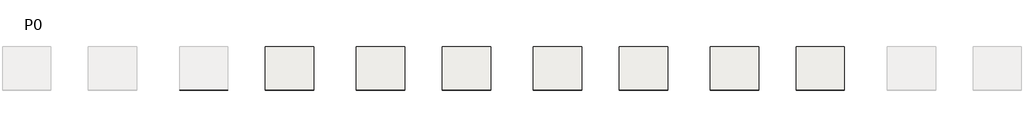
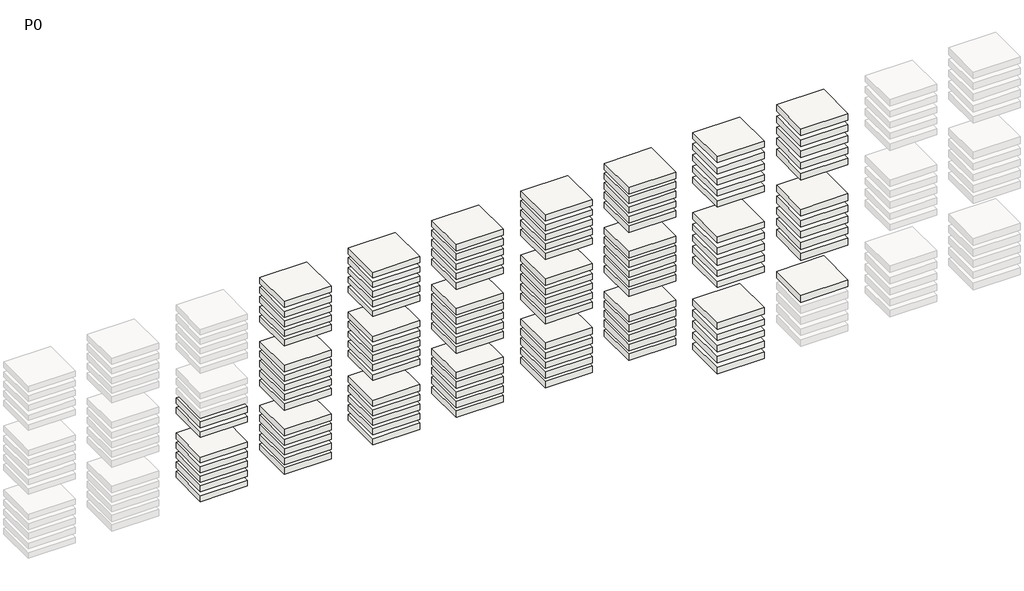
# One storey, part 7 of 11: 108 slabs.
"""IFC4 building model written with IfcOpenShell, lengths in millimetres."""

from ifc_helpers import new_model, si_unit, frame, origin, place, context, project, spatial, polyline, outline, extrude, element, save

model = new_model("IFC4")

# Units and contexts
model_context = context("Model", 3, world=origin())
ifc_project = project(units=[si_unit("LENGTHUNIT", "METRE", prefix="MILLI")], contexts=[model_context])

# Site, building, storey
site = spatial("IfcSite", under=ifc_project)
building = spatial("IfcBuilding", under=site)
storey = spatial("IfcBuildingStorey", under=building, Name="P0", Elevation=0.0)

# Slabs
placement = place(None, origin())
element("IfcSlab", 1, ObjectType="NNEH27 H6", at=placement, inside=storey, context=model_context, shape_type="SweptSolid", body=[
    extrude(outline(polyline([(174510.1564071, 1686.0689128), (174510.1564071, -1013.9310872), (171510.1564071, -1013.9310872), (171510.1564071, 1686.0689128), (174510.1564071, 1686.0689128)])), frame((0.0, 0.0, -13779.5322376), z_axis=(0.0, 0.0, 1.0), x_axis=(1.0, 0.0, 0.0)), (0.0, 0.0, 1.0), 388.0),
])
element("IfcSlab", 2, ObjectType="NNEH27 H6", at=placement, inside=storey, context=model_context, shape_type="SweptSolid", body=[
    extrude(outline(polyline([(174510.1564071, 1686.0689128), (174510.1564071, -1013.9310872), (171510.1564071, -1013.9310872), (171510.1564071, 1686.0689128), (174510.1564071, 1686.0689128)])), frame((0.0, 0.0, -14429.5322376), z_axis=(0.0, 0.0, 1.0), x_axis=(1.0, 0.0, 0.0)), (0.0, 0.0, 1.0), 388.0),
])
element("IfcSlab", 3, ObjectType="NNEH27 H7", at=placement, inside=storey, context=model_context, shape_type="SweptSolid", body=[
    extrude(outline(polyline([(174510.1564071, 1686.0689128), (174510.1564071, -1013.9310872), (171510.1564071, -1013.9310872), (171510.1564071, 1686.0689128), (174510.1564071, 1686.0689128)])), frame((0.0, 0.0, -16159.5323192), z_axis=(0.0, 0.0, 1.0), x_axis=(1.0, 0.0, 0.0)), (0.0, 0.0, 1.0), 398.0),
])
element("IfcSlab", 4, ObjectType="NNEH27 H7", at=placement, inside=storey, context=model_context, shape_type="SweptSolid", body=[
    extrude(outline(polyline([(174510.1564071, 1686.0689128), (174510.1564071, -1013.9310872), (171510.1564071, -1013.9310872), (171510.1564071, 1686.0689128), (174510.1564071, 1686.0689128)])), frame((0.0, 0.0, -16809.5323192), z_axis=(0.0, 0.0, 1.0), x_axis=(1.0, 0.0, 0.0)), (0.0, 0.0, 1.0), 398.0),
])
element("IfcSlab", 5, ObjectType="NNEH27 H7", at=placement, inside=storey, context=model_context, shape_type="SweptSolid", body=[
    extrude(outline(polyline([(174510.1564071, 1686.0689128), (174510.1564071, -1013.9310872), (171510.1564071, -1013.9310872), (171510.1564071, 1686.0689128), (174510.1564071, 1686.0689128)])), frame((0.0, 0.0, -17459.5323192), z_axis=(0.0, 0.0, 1.0), x_axis=(1.0, 0.0, 0.0)), (0.0, 0.0, 1.0), 398.0),
])
element("IfcSlab", 6, ObjectType="NNEH27 H7", at=placement, inside=storey, context=model_context, shape_type="SweptSolid", body=[
    extrude(outline(polyline([(174510.1564071, 1686.0689128), (174510.1564071, -1013.9310872), (171510.1564071, -1013.9310872), (171510.1564071, 1686.0689128), (174510.1564071, 1686.0689128)])), frame((0.0, 0.0, -18109.5323192), z_axis=(0.0, 0.0, 1.0), x_axis=(1.0, 0.0, 0.0)), (0.0, 0.0, 1.0), 398.0),
])
element("IfcSlab", 7, ObjectType="NNEH27 H7", at=placement, inside=storey, context=model_context, shape_type="SweptSolid", body=[
    extrude(outline(polyline([(174510.1564071, 1686.0689128), (174510.1564071, -1013.9310872), (171510.1564071, -1013.9310872), (171510.1564071, 1686.0689128), (174510.1564071, 1686.0689128)])), frame((0.0, 0.0, -18759.5323192), z_axis=(0.0, 0.0, 1.0), x_axis=(1.0, 0.0, 0.0)), (0.0, 0.0, 1.0), 398.0),
])
element("IfcSlab", 8, ObjectType="NNEH27 H8", at=placement, inside=storey, context=model_context, shape_type="SweptSolid", body=[
    extrude(outline(polyline([(179850.1564071, 1686.0689128), (179850.1564071, -1013.9310872), (176850.1564071, -1013.9310872), (176850.1564071, 1686.0689128), (179850.1564071, 1686.0689128)])), frame((0.0, 0.0, -7529.5323192), z_axis=(0.0, 0.0, 1.0), x_axis=(1.0, 0.0, 0.0)), (0.0, 0.0, 1.0), 408.0),
])
element("IfcSlab", 9, ObjectType="NNEH27 H8", at=placement, inside=storey, context=model_context, shape_type="SweptSolid", body=[
    extrude(outline(polyline([(179850.1564071, 1686.0689128), (179850.1564071, -1013.9310872), (176850.1564071, -1013.9310872), (176850.1564071, 1686.0689128), (179850.1564071, 1686.0689128)])), frame((0.0, 0.0, -8179.5323192), z_axis=(0.0, 0.0, 1.0), x_axis=(1.0, 0.0, 0.0)), (0.0, 0.0, 1.0), 408.0),
])
element("IfcSlab", 10, ObjectType="NNEH27 H8", at=placement, inside=storey, context=model_context, shape_type="SweptSolid", body=[
    extrude(outline(polyline([(179850.1564071, 1686.0689128), (179850.1564071, -1013.9310872), (176850.1564071, -1013.9310872), (176850.1564071, 1686.0689128), (179850.1564071, 1686.0689128)])), frame((0.0, 0.0, -8829.5323192), z_axis=(0.0, 0.0, 1.0), x_axis=(1.0, 0.0, 0.0)), (0.0, 0.0, 1.0), 408.0),
])
element("IfcSlab", 11, ObjectType="NNEH27 H8", at=placement, inside=storey, context=model_context, shape_type="SweptSolid", body=[
    extrude(outline(polyline([(179850.1564071, 1686.0689128), (179850.1564071, -1013.9310872), (176850.1564071, -1013.9310872), (176850.1564071, 1686.0689128), (179850.1564071, 1686.0689128)])), frame((0.0, 0.0, -9479.5323192), z_axis=(0.0, 0.0, 1.0), x_axis=(1.0, 0.0, 0.0)), (0.0, 0.0, 1.0), 408.0),
])
element("IfcSlab", 12, ObjectType="NNEH27 H8", at=placement, inside=storey, context=model_context, shape_type="SweptSolid", body=[
    extrude(outline(polyline([(179850.1564071, 1686.0689128), (179850.1564071, -1013.9310872), (176850.1564071, -1013.9310872), (176850.1564071, 1686.0689128), (179850.1564071, 1686.0689128)])), frame((0.0, 0.0, -10129.5324008), z_axis=(0.0, 0.0, 1.0), x_axis=(1.0, 0.0, 0.0)), (0.0, 0.0, 1.0), 408.0),
])
element("IfcSlab", 13, ObjectType="NNEH27 H9", at=placement, inside=storey, context=model_context, shape_type="SweptSolid", body=[
    extrude(outline(polyline([(179850.1564071, 1686.0689128), (179850.1564071, -1013.9310872), (176850.1564071, -1013.9310872), (176850.1564071, 1686.0689128), (179850.1564071, 1686.0689128)])), frame((0.0, 0.0, -11859.5322376), z_axis=(0.0, 0.0, 1.0), x_axis=(1.0, 0.0, 0.0)), (0.0, 0.0, 1.0), 418.0),
])
element("IfcSlab", 14, ObjectType="NNEH27 H9", at=placement, inside=storey, context=model_context, shape_type="SweptSolid", body=[
    extrude(outline(polyline([(179850.1564071, 1686.0689128), (179850.1564071, -1013.9310872), (176850.1564071, -1013.9310872), (176850.1564071, 1686.0689128), (179850.1564071, 1686.0689128)])), frame((0.0, 0.0, -12509.5322376), z_axis=(0.0, 0.0, 1.0), x_axis=(1.0, 0.0, 0.0)), (0.0, 0.0, 1.0), 418.0),
])
element("IfcSlab", 15, ObjectType="NNEH27 H9", at=placement, inside=storey, context=model_context, shape_type="SweptSolid", body=[
    extrude(outline(polyline([(179850.1564071, 1686.0689128), (179850.1564071, -1013.9310872), (176850.1564071, -1013.9310872), (176850.1564071, 1686.0689128), (179850.1564071, 1686.0689128)])), frame((0.0, 0.0, -13159.5322376), z_axis=(0.0, 0.0, 1.0), x_axis=(1.0, 0.0, 0.0)), (0.0, 0.0, 1.0), 418.0),
])
element("IfcSlab", 16, ObjectType="NNEH27 H9", at=placement, inside=storey, context=model_context, shape_type="SweptSolid", body=[
    extrude(outline(polyline([(179850.1564071, 1686.0689128), (179850.1564071, -1013.9310872), (176850.1564071, -1013.9310872), (176850.1564071, 1686.0689128), (179850.1564071, 1686.0689128)])), frame((0.0, 0.0, -13809.5322376), z_axis=(0.0, 0.0, 1.0), x_axis=(1.0, 0.0, 0.0)), (0.0, 0.0, 1.0), 418.0),
])
element("IfcSlab", 17, ObjectType="NNEH27 H9", at=placement, inside=storey, context=model_context, shape_type="SweptSolid", body=[
    extrude(outline(polyline([(179850.1564071, 1686.0689128), (179850.1564071, -1013.9310872), (176850.1564071, -1013.9310872), (176850.1564071, 1686.0689128), (179850.1564071, 1686.0689128)])), frame((0.0, 0.0, -14459.5322376), z_axis=(0.0, 0.0, 1.0), x_axis=(1.0, 0.0, 0.0)), (0.0, 0.0, 1.0), 418.0),
])
element("IfcSlab", 18, ObjectType="NNEH27 H10", at=placement, inside=storey, context=model_context, shape_type="SweptSolid", body=[
    extrude(outline(polyline([(179850.1564071, 1686.0689128), (179850.1564071, -1013.9310872), (176850.1564071, -1013.9310872), (176850.1564071, 1686.0689128), (179850.1564071, 1686.0689128)])), frame((0.0, 0.0, -16189.5323192), z_axis=(0.0, 0.0, 1.0), x_axis=(1.0, 0.0, 0.0)), (0.0, 0.0, 1.0), 428.0),
])
element("IfcSlab", 19, ObjectType="NNEH27 H10", at=placement, inside=storey, context=model_context, shape_type="SweptSolid", body=[
    extrude(outline(polyline([(179850.1564071, 1686.0689128), (179850.1564071, -1013.9310872), (176850.1564071, -1013.9310872), (176850.1564071, 1686.0689128), (179850.1564071, 1686.0689128)])), frame((0.0, 0.0, -16839.5323192), z_axis=(0.0, 0.0, 1.0), x_axis=(1.0, 0.0, 0.0)), (0.0, 0.0, 1.0), 428.0),
])
element("IfcSlab", 20, ObjectType="NNEH27 H10", at=placement, inside=storey, context=model_context, shape_type="SweptSolid", body=[
    extrude(outline(polyline([(179850.1564071, 1686.0689128), (179850.1564071, -1013.9310872), (176850.1564071, -1013.9310872), (176850.1564071, 1686.0689128), (179850.1564071, 1686.0689128)])), frame((0.0, 0.0, -17489.5323192), z_axis=(0.0, 0.0, 1.0), x_axis=(1.0, 0.0, 0.0)), (0.0, 0.0, 1.0), 428.0),
])
element("IfcSlab", 21, ObjectType="NNEH27 H10", at=placement, inside=storey, context=model_context, shape_type="SweptSolid", body=[
    extrude(outline(polyline([(179850.1564071, 1686.0689128), (179850.1564071, -1013.9310872), (176850.1564071, -1013.9310872), (176850.1564071, 1686.0689128), (179850.1564071, 1686.0689128)])), frame((0.0, 0.0, -18139.5323192), z_axis=(0.0, 0.0, 1.0), x_axis=(1.0, 0.0, 0.0)), (0.0, 0.0, 1.0), 428.0),
])
element("IfcSlab", 22, ObjectType="NNEH27 H10", at=placement, inside=storey, context=model_context, shape_type="SweptSolid", body=[
    extrude(outline(polyline([(179850.1564071, 1686.0689128), (179850.1564071, -1013.9310872), (176850.1564071, -1013.9310872), (176850.1564071, 1686.0689128), (179850.1564071, 1686.0689128)])), frame((0.0, 0.0, -18789.5323192), z_axis=(0.0, 0.0, 1.0), x_axis=(1.0, 0.0, 0.0)), (0.0, 0.0, 1.0), 428.0),
])
element("IfcSlab", 23, ObjectType="NNEH28 H5", at=placement, inside=storey, context=model_context, shape_type="SweptSolid", body=[
    extrude(outline(polyline([(185510.1564071, 1686.0689128), (185510.1564071, -1013.9310872), (182510.1564071, -1013.9310872), (182510.1564071, 1686.0689128), (185510.1564071, 1686.0689128)])), frame((0.0, 0.0, -7509.5324008), z_axis=(0.0, 0.0, 1.0), x_axis=(1.0, 0.0, 0.0)), (0.0, 0.0, 1.0), 388.0),
])
element("IfcSlab", 24, ObjectType="NNEH28 H5", at=placement, inside=storey, context=model_context, shape_type="SweptSolid", body=[
    extrude(outline(polyline([(185510.1564071, 1686.0689128), (185510.1564071, -1013.9310872), (182510.1564071, -1013.9310872), (182510.1564071, 1686.0689128), (185510.1564071, 1686.0689128)])), frame((0.0, 0.0, -8159.5323192), z_axis=(0.0, 0.0, 1.0), x_axis=(1.0, 0.0, 0.0)), (0.0, 0.0, 1.0), 388.0),
])
element("IfcSlab", 25, ObjectType="NNEH28 H5", at=placement, inside=storey, context=model_context, shape_type="SweptSolid", body=[
    extrude(outline(polyline([(185510.1564071, 1686.0689128), (185510.1564071, -1013.9310872), (182510.1564071, -1013.9310872), (182510.1564071, 1686.0689128), (185510.1564071, 1686.0689128)])), frame((0.0, 0.0, -8809.5323192), z_axis=(0.0, 0.0, 1.0), x_axis=(1.0, 0.0, 0.0)), (0.0, 0.0, 1.0), 388.0),
])
element("IfcSlab", 26, ObjectType="NNEH28 H5", at=placement, inside=storey, context=model_context, shape_type="SweptSolid", body=[
    extrude(outline(polyline([(185510.1564071, 1686.0689128), (185510.1564071, -1013.9310872), (182510.1564071, -1013.9310872), (182510.1564071, 1686.0689128), (185510.1564071, 1686.0689128)])), frame((0.0, 0.0, -9459.5323192), z_axis=(0.0, 0.0, 1.0), x_axis=(1.0, 0.0, 0.0)), (0.0, 0.0, 1.0), 388.0),
])
element("IfcSlab", 27, ObjectType="NNEH28 H5", at=placement, inside=storey, context=model_context, shape_type="SweptSolid", body=[
    extrude(outline(polyline([(185510.1564071, 1686.0689128), (185510.1564071, -1013.9310872), (182510.1564071, -1013.9310872), (182510.1564071, 1686.0689128), (185510.1564071, 1686.0689128)])), frame((0.0, 0.0, -10109.5324008), z_axis=(0.0, 0.0, 1.0), x_axis=(1.0, 0.0, 0.0)), (0.0, 0.0, 1.0), 388.0),
])
element("IfcSlab", 28, ObjectType="NNEH28 H6", at=placement, inside=storey, context=model_context, shape_type="SweptSolid", body=[
    extrude(outline(polyline([(185510.1564071, 1686.0689128), (185510.1564071, -1013.9310872), (182510.1564071, -1013.9310872), (182510.1564071, 1686.0689128), (185510.1564071, 1686.0689128)])), frame((0.0, 0.0, -11839.5322376), z_axis=(0.0, 0.0, 1.0), x_axis=(1.0, 0.0, 0.0)), (0.0, 0.0, 1.0), 398.0),
])
element("IfcSlab", 29, ObjectType="NNEH28 H6", at=placement, inside=storey, context=model_context, shape_type="SweptSolid", body=[
    extrude(outline(polyline([(185510.1564071, 1686.0689128), (185510.1564071, -1013.9310872), (182510.1564071, -1013.9310872), (182510.1564071, 1686.0689128), (185510.1564071, 1686.0689128)])), frame((0.0, 0.0, -12489.5322376), z_axis=(0.0, 0.0, 1.0), x_axis=(1.0, 0.0, 0.0)), (0.0, 0.0, 1.0), 398.0),
])
element("IfcSlab", 30, ObjectType="NNEH28 H6", at=placement, inside=storey, context=model_context, shape_type="SweptSolid", body=[
    extrude(outline(polyline([(185510.1564071, 1686.0689128), (185510.1564071, -1013.9310872), (182510.1564071, -1013.9310872), (182510.1564071, 1686.0689128), (185510.1564071, 1686.0689128)])), frame((0.0, 0.0, -13139.5322376), z_axis=(0.0, 0.0, 1.0), x_axis=(1.0, 0.0, 0.0)), (0.0, 0.0, 1.0), 398.0),
])
element("IfcSlab", 31, ObjectType="NNEH28 H6", at=placement, inside=storey, context=model_context, shape_type="SweptSolid", body=[
    extrude(outline(polyline([(185510.1564071, 1686.0689128), (185510.1564071, -1013.9310872), (182510.1564071, -1013.9310872), (182510.1564071, 1686.0689128), (185510.1564071, 1686.0689128)])), frame((0.0, 0.0, -13789.5322376), z_axis=(0.0, 0.0, 1.0), x_axis=(1.0, 0.0, 0.0)), (0.0, 0.0, 1.0), 398.0),
])
element("IfcSlab", 32, ObjectType="NNEH28 H6", at=placement, inside=storey, context=model_context, shape_type="SweptSolid", body=[
    extrude(outline(polyline([(185510.1564071, 1686.0689128), (185510.1564071, -1013.9310872), (182510.1564071, -1013.9310872), (182510.1564071, 1686.0689128), (185510.1564071, 1686.0689128)])), frame((0.0, 0.0, -14439.5322376), z_axis=(0.0, 0.0, 1.0), x_axis=(1.0, 0.0, 0.0)), (0.0, 0.0, 1.0), 398.0),
])
element("IfcSlab", 33, ObjectType="NNEH28 H7", at=placement, inside=storey, context=model_context, shape_type="SweptSolid", body=[
    extrude(outline(polyline([(185510.1564071, 1686.0689128), (185510.1564071, -1013.9310872), (182510.1564071, -1013.9310872), (182510.1564071, 1686.0689128), (185510.1564071, 1686.0689128)])), frame((0.0, 0.0, -16169.5323192), z_axis=(0.0, 0.0, 1.0), x_axis=(1.0, 0.0, 0.0)), (0.0, 0.0, 1.0), 408.0),
])
element("IfcSlab", 34, ObjectType="NNEH28 H7", at=placement, inside=storey, context=model_context, shape_type="SweptSolid", body=[
    extrude(outline(polyline([(185510.1564071, 1686.0689128), (185510.1564071, -1013.9310872), (182510.1564071, -1013.9310872), (182510.1564071, 1686.0689128), (185510.1564071, 1686.0689128)])), frame((0.0, 0.0, -16819.5323192), z_axis=(0.0, 0.0, 1.0), x_axis=(1.0, 0.0, 0.0)), (0.0, 0.0, 1.0), 408.0),
])
element("IfcSlab", 35, ObjectType="NNEH28 H7", at=placement, inside=storey, context=model_context, shape_type="SweptSolid", body=[
    extrude(outline(polyline([(185510.1564071, 1686.0689128), (185510.1564071, -1013.9310872), (182510.1564071, -1013.9310872), (182510.1564071, 1686.0689128), (185510.1564071, 1686.0689128)])), frame((0.0, 0.0, -17469.5323192), z_axis=(0.0, 0.0, 1.0), x_axis=(1.0, 0.0, 0.0)), (0.0, 0.0, 1.0), 408.0),
])
element("IfcSlab", 36, ObjectType="NNEH28 H7", at=placement, inside=storey, context=model_context, shape_type="SweptSolid", body=[
    extrude(outline(polyline([(185510.1564071, 1686.0689128), (185510.1564071, -1013.9310872), (182510.1564071, -1013.9310872), (182510.1564071, 1686.0689128), (185510.1564071, 1686.0689128)])), frame((0.0, 0.0, -18119.5323192), z_axis=(0.0, 0.0, 1.0), x_axis=(1.0, 0.0, 0.0)), (0.0, 0.0, 1.0), 408.0),
])
element("IfcSlab", 37, ObjectType="NNEH28 H7", at=placement, inside=storey, context=model_context, shape_type="SweptSolid", body=[
    extrude(outline(polyline([(185510.1564071, 1686.0689128), (185510.1564071, -1013.9310872), (182510.1564071, -1013.9310872), (182510.1564071, 1686.0689128), (185510.1564071, 1686.0689128)])), frame((0.0, 0.0, -18769.5323192), z_axis=(0.0, 0.0, 1.0), x_axis=(1.0, 0.0, 0.0)), (0.0, 0.0, 1.0), 408.0),
])
element("IfcSlab", 38, ObjectType="NNEH28 H8", at=placement, inside=storey, context=model_context, shape_type="SweptSolid", body=[
    extrude(outline(polyline([(190850.1564071, 1686.0689128), (190850.1564071, -1013.9310872), (187850.1564071, -1013.9310872), (187850.1564071, 1686.0689128), (190850.1564071, 1686.0689128)])), frame((0.0, 0.0, -7539.5323192), z_axis=(0.0, 0.0, 1.0), x_axis=(1.0, 0.0, 0.0)), (0.0, 0.0, 1.0), 418.0),
])
element("IfcSlab", 39, ObjectType="NNEH28 H8", at=placement, inside=storey, context=model_context, shape_type="SweptSolid", body=[
    extrude(outline(polyline([(190850.1564071, 1686.0689128), (190850.1564071, -1013.9310872), (187850.1564071, -1013.9310872), (187850.1564071, 1686.0689128), (190850.1564071, 1686.0689128)])), frame((0.0, 0.0, -8189.5323192), z_axis=(0.0, 0.0, 1.0), x_axis=(1.0, 0.0, 0.0)), (0.0, 0.0, 1.0), 418.0),
])
element("IfcSlab", 40, ObjectType="NNEH28 H8", at=placement, inside=storey, context=model_context, shape_type="SweptSolid", body=[
    extrude(outline(polyline([(190850.1564071, 1686.0689128), (190850.1564071, -1013.9310872), (187850.1564071, -1013.9310872), (187850.1564071, 1686.0689128), (190850.1564071, 1686.0689128)])), frame((0.0, 0.0, -8839.5323192), z_axis=(0.0, 0.0, 1.0), x_axis=(1.0, 0.0, 0.0)), (0.0, 0.0, 1.0), 418.0),
])
element("IfcSlab", 41, ObjectType="NNEH28 H8", at=placement, inside=storey, context=model_context, shape_type="SweptSolid", body=[
    extrude(outline(polyline([(190850.1564071, 1686.0689128), (190850.1564071, -1013.9310872), (187850.1564071, -1013.9310872), (187850.1564071, 1686.0689128), (190850.1564071, 1686.0689128)])), frame((0.0, 0.0, -9489.5323192), z_axis=(0.0, 0.0, 1.0), x_axis=(1.0, 0.0, 0.0)), (0.0, 0.0, 1.0), 418.0),
])
element("IfcSlab", 42, ObjectType="NNEH28 H8", at=placement, inside=storey, context=model_context, shape_type="SweptSolid", body=[
    extrude(outline(polyline([(190850.1564071, 1686.0689128), (190850.1564071, -1013.9310872), (187850.1564071, -1013.9310872), (187850.1564071, 1686.0689128), (190850.1564071, 1686.0689128)])), frame((0.0, 0.0, -10139.5324008), z_axis=(0.0, 0.0, 1.0), x_axis=(1.0, 0.0, 0.0)), (0.0, 0.0, 1.0), 418.0),
])
element("IfcSlab", 43, ObjectType="NNEH28 H9", at=placement, inside=storey, context=model_context, shape_type="SweptSolid", body=[
    extrude(outline(polyline([(190850.1564071, 1686.0689128), (190850.1564071, -1013.9310872), (187850.1564071, -1013.9310872), (187850.1564071, 1686.0689128), (190850.1564071, 1686.0689128)])), frame((0.0, 0.0, -11869.5322376), z_axis=(0.0, 0.0, 1.0), x_axis=(1.0, 0.0, 0.0)), (0.0, 0.0, 1.0), 428.0),
])
element("IfcSlab", 44, ObjectType="NNEH28 H9", at=placement, inside=storey, context=model_context, shape_type="SweptSolid", body=[
    extrude(outline(polyline([(190850.1564071, 1686.0689128), (190850.1564071, -1013.9310872), (187850.1564071, -1013.9310872), (187850.1564071, 1686.0689128), (190850.1564071, 1686.0689128)])), frame((0.0, 0.0, -12519.5322376), z_axis=(0.0, 0.0, 1.0), x_axis=(1.0, 0.0, 0.0)), (0.0, 0.0, 1.0), 428.0),
])
element("IfcSlab", 45, ObjectType="NNEH28 H9", at=placement, inside=storey, context=model_context, shape_type="SweptSolid", body=[
    extrude(outline(polyline([(190850.1564071, 1686.0689128), (190850.1564071, -1013.9310872), (187850.1564071, -1013.9310872), (187850.1564071, 1686.0689128), (190850.1564071, 1686.0689128)])), frame((0.0, 0.0, -13169.5322376), z_axis=(0.0, 0.0, 1.0), x_axis=(1.0, 0.0, 0.0)), (0.0, 0.0, 1.0), 428.0),
])
element("IfcSlab", 46, ObjectType="NNEH28 H9", at=placement, inside=storey, context=model_context, shape_type="SweptSolid", body=[
    extrude(outline(polyline([(190850.1564071, 1686.0689128), (190850.1564071, -1013.9310872), (187850.1564071, -1013.9310872), (187850.1564071, 1686.0689128), (190850.1564071, 1686.0689128)])), frame((0.0, 0.0, -13819.5322376), z_axis=(0.0, 0.0, 1.0), x_axis=(1.0, 0.0, 0.0)), (0.0, 0.0, 1.0), 428.0),
])
element("IfcSlab", 47, ObjectType="NNEH28 H9", at=placement, inside=storey, context=model_context, shape_type="SweptSolid", body=[
    extrude(outline(polyline([(190850.1564071, 1686.0689128), (190850.1564071, -1013.9310872), (187850.1564071, -1013.9310872), (187850.1564071, 1686.0689128), (190850.1564071, 1686.0689128)])), frame((0.0, 0.0, -14469.5322376), z_axis=(0.0, 0.0, 1.0), x_axis=(1.0, 0.0, 0.0)), (0.0, 0.0, 1.0), 428.0),
])
element("IfcSlab", 48, ObjectType="NNEH28 H10", at=placement, inside=storey, context=model_context, shape_type="SweptSolid", body=[
    extrude(outline(polyline([(190850.1564071, 1686.0689128), (190850.1564071, -1013.9310872), (187850.1564071, -1013.9310872), (187850.1564071, 1686.0689128), (190850.1564071, 1686.0689128)])), frame((0.0, 0.0, -16199.5323192), z_axis=(0.0, 0.0, 1.0), x_axis=(1.0, 0.0, 0.0)), (0.0, 0.0, 1.0), 438.0),
])
element("IfcSlab", 49, ObjectType="NNEH28 H10", at=placement, inside=storey, context=model_context, shape_type="SweptSolid", body=[
    extrude(outline(polyline([(190850.1564071, 1686.0689128), (190850.1564071, -1013.9310872), (187850.1564071, -1013.9310872), (187850.1564071, 1686.0689128), (190850.1564071, 1686.0689128)])), frame((0.0, 0.0, -16849.5323192), z_axis=(0.0, 0.0, 1.0), x_axis=(1.0, 0.0, 0.0)), (0.0, 0.0, 1.0), 438.0),
])
element("IfcSlab", 50, ObjectType="NNEH28 H10", at=placement, inside=storey, context=model_context, shape_type="SweptSolid", body=[
    extrude(outline(polyline([(190850.1564071, 1686.0689128), (190850.1564071, -1013.9310872), (187850.1564071, -1013.9310872), (187850.1564071, 1686.0689128), (190850.1564071, 1686.0689128)])), frame((0.0, 0.0, -17499.5323192), z_axis=(0.0, 0.0, 1.0), x_axis=(1.0, 0.0, 0.0)), (0.0, 0.0, 1.0), 438.0),
])
element("IfcSlab", 51, ObjectType="NNEH28 H10", at=placement, inside=storey, context=model_context, shape_type="SweptSolid", body=[
    extrude(outline(polyline([(190850.1564071, 1686.0689128), (190850.1564071, -1013.9310872), (187850.1564071, -1013.9310872), (187850.1564071, 1686.0689128), (190850.1564071, 1686.0689128)])), frame((0.0, 0.0, -18149.5323192), z_axis=(0.0, 0.0, 1.0), x_axis=(1.0, 0.0, 0.0)), (0.0, 0.0, 1.0), 438.0),
])
element("IfcSlab", 52, ObjectType="NNEH28 H10", at=placement, inside=storey, context=model_context, shape_type="SweptSolid", body=[
    extrude(outline(polyline([(190850.1564071, 1686.0689128), (190850.1564071, -1013.9310872), (187850.1564071, -1013.9310872), (187850.1564071, 1686.0689128), (190850.1564071, 1686.0689128)])), frame((0.0, 0.0, -18799.5323192), z_axis=(0.0, 0.0, 1.0), x_axis=(1.0, 0.0, 0.0)), (0.0, 0.0, 1.0), 438.0),
])
element("IfcSlab", 53, ObjectType="NNEH29 H5", at=placement, inside=storey, context=model_context, shape_type="SweptSolid", body=[
    extrude(outline(polyline([(196510.1564071, 1686.0689128), (196510.1564071, -1013.9310872), (193510.1564071, -1013.9310872), (193510.1564071, 1686.0689128), (196510.1564071, 1686.0689128)])), frame((0.0, 0.0, -7519.5324008), z_axis=(0.0, 0.0, 1.0), x_axis=(1.0, 0.0, 0.0)), (0.0, 0.0, 1.0), 398.0),
])
element("IfcSlab", 54, ObjectType="NNEH29 H5", at=placement, inside=storey, context=model_context, shape_type="SweptSolid", body=[
    extrude(outline(polyline([(196510.1564071, 1686.0689128), (196510.1564071, -1013.9310872), (193510.1564071, -1013.9310872), (193510.1564071, 1686.0689128), (196510.1564071, 1686.0689128)])), frame((0.0, 0.0, -8169.5323192), z_axis=(0.0, 0.0, 1.0), x_axis=(1.0, 0.0, 0.0)), (0.0, 0.0, 1.0), 398.0),
])
element("IfcSlab", 55, ObjectType="NNEH29 H5", at=placement, inside=storey, context=model_context, shape_type="SweptSolid", body=[
    extrude(outline(polyline([(196510.1564071, 1686.0689128), (196510.1564071, -1013.9310872), (193510.1564071, -1013.9310872), (193510.1564071, 1686.0689128), (196510.1564071, 1686.0689128)])), frame((0.0, 0.0, -8819.5323192), z_axis=(0.0, 0.0, 1.0), x_axis=(1.0, 0.0, 0.0)), (0.0, 0.0, 1.0), 398.0),
])
element("IfcSlab", 56, ObjectType="NNEH29 H5", at=placement, inside=storey, context=model_context, shape_type="SweptSolid", body=[
    extrude(outline(polyline([(196510.1564071, 1686.0689128), (196510.1564071, -1013.9310872), (193510.1564071, -1013.9310872), (193510.1564071, 1686.0689128), (196510.1564071, 1686.0689128)])), frame((0.0, 0.0, -9469.5323192), z_axis=(0.0, 0.0, 1.0), x_axis=(1.0, 0.0, 0.0)), (0.0, 0.0, 1.0), 398.0),
])
element("IfcSlab", 57, ObjectType="NNEH29 H5", at=placement, inside=storey, context=model_context, shape_type="SweptSolid", body=[
    extrude(outline(polyline([(196510.1564071, 1686.0689128), (196510.1564071, -1013.9310872), (193510.1564071, -1013.9310872), (193510.1564071, 1686.0689128), (196510.1564071, 1686.0689128)])), frame((0.0, 0.0, -10119.5324008), z_axis=(0.0, 0.0, 1.0), x_axis=(1.0, 0.0, 0.0)), (0.0, 0.0, 1.0), 398.0),
])
element("IfcSlab", 58, ObjectType="NNEH29 H6", at=placement, inside=storey, context=model_context, shape_type="SweptSolid", body=[
    extrude(outline(polyline([(196510.1564071, 1686.0689128), (196510.1564071, -1013.9310872), (193510.1564071, -1013.9310872), (193510.1564071, 1686.0689128), (196510.1564071, 1686.0689128)])), frame((0.0, 0.0, -11849.5322376), z_axis=(0.0, 0.0, 1.0), x_axis=(1.0, 0.0, 0.0)), (0.0, 0.0, 1.0), 408.0),
])
element("IfcSlab", 59, ObjectType="NNEH29 H6", at=placement, inside=storey, context=model_context, shape_type="SweptSolid", body=[
    extrude(outline(polyline([(196510.1564071, 1686.0689128), (196510.1564071, -1013.9310872), (193510.1564071, -1013.9310872), (193510.1564071, 1686.0689128), (196510.1564071, 1686.0689128)])), frame((0.0, 0.0, -12499.5322376), z_axis=(0.0, 0.0, 1.0), x_axis=(1.0, 0.0, 0.0)), (0.0, 0.0, 1.0), 408.0),
])
element("IfcSlab", 60, ObjectType="NNEH29 H6", at=placement, inside=storey, context=model_context, shape_type="SweptSolid", body=[
    extrude(outline(polyline([(196510.1564071, 1686.0689128), (196510.1564071, -1013.9310872), (193510.1564071, -1013.9310872), (193510.1564071, 1686.0689128), (196510.1564071, 1686.0689128)])), frame((0.0, 0.0, -13149.5322376), z_axis=(0.0, 0.0, 1.0), x_axis=(1.0, 0.0, 0.0)), (0.0, 0.0, 1.0), 408.0),
])
element("IfcSlab", 61, ObjectType="NNEH29 H6", at=placement, inside=storey, context=model_context, shape_type="SweptSolid", body=[
    extrude(outline(polyline([(196510.1564071, 1686.0689128), (196510.1564071, -1013.9310872), (193510.1564071, -1013.9310872), (193510.1564071, 1686.0689128), (196510.1564071, 1686.0689128)])), frame((0.0, 0.0, -13799.5322376), z_axis=(0.0, 0.0, 1.0), x_axis=(1.0, 0.0, 0.0)), (0.0, 0.0, 1.0), 408.0),
])
element("IfcSlab", 62, ObjectType="NNEH29 H6", at=placement, inside=storey, context=model_context, shape_type="SweptSolid", body=[
    extrude(outline(polyline([(196510.1564071, 1686.0689128), (196510.1564071, -1013.9310872), (193510.1564071, -1013.9310872), (193510.1564071, 1686.0689128), (196510.1564071, 1686.0689128)])), frame((0.0, 0.0, -14449.5322376), z_axis=(0.0, 0.0, 1.0), x_axis=(1.0, 0.0, 0.0)), (0.0, 0.0, 1.0), 408.0),
])
element("IfcSlab", 63, ObjectType="NNEH29 H7", at=placement, inside=storey, context=model_context, shape_type="SweptSolid", body=[
    extrude(outline(polyline([(196510.1564071, 1686.0689128), (196510.1564071, -1013.9310872), (193510.1564071, -1013.9310872), (193510.1564071, 1686.0689128), (196510.1564071, 1686.0689128)])), frame((0.0, 0.0, -16179.5323192), z_axis=(0.0, 0.0, 1.0), x_axis=(1.0, 0.0, 0.0)), (0.0, 0.0, 1.0), 418.0),
])
element("IfcSlab", 64, ObjectType="NNEH29 H7", at=placement, inside=storey, context=model_context, shape_type="SweptSolid", body=[
    extrude(outline(polyline([(196510.1564071, 1686.0689128), (196510.1564071, -1013.9310872), (193510.1564071, -1013.9310872), (193510.1564071, 1686.0689128), (196510.1564071, 1686.0689128)])), frame((0.0, 0.0, -16829.5323192), z_axis=(0.0, 0.0, 1.0), x_axis=(1.0, 0.0, 0.0)), (0.0, 0.0, 1.0), 418.0),
])
element("IfcSlab", 65, ObjectType="NNEH29 H7", at=placement, inside=storey, context=model_context, shape_type="SweptSolid", body=[
    extrude(outline(polyline([(196510.1564071, 1686.0689128), (196510.1564071, -1013.9310872), (193510.1564071, -1013.9310872), (193510.1564071, 1686.0689128), (196510.1564071, 1686.0689128)])), frame((0.0, 0.0, -17479.5323192), z_axis=(0.0, 0.0, 1.0), x_axis=(1.0, 0.0, 0.0)), (0.0, 0.0, 1.0), 418.0),
])
element("IfcSlab", 66, ObjectType="NNEH29 H7", at=placement, inside=storey, context=model_context, shape_type="SweptSolid", body=[
    extrude(outline(polyline([(196510.1564071, 1686.0689128), (196510.1564071, -1013.9310872), (193510.1564071, -1013.9310872), (193510.1564071, 1686.0689128), (196510.1564071, 1686.0689128)])), frame((0.0, 0.0, -18129.5323192), z_axis=(0.0, 0.0, 1.0), x_axis=(1.0, 0.0, 0.0)), (0.0, 0.0, 1.0), 418.0),
])
element("IfcSlab", 67, ObjectType="NNEH29 H7", at=placement, inside=storey, context=model_context, shape_type="SweptSolid", body=[
    extrude(outline(polyline([(196510.1564071, 1686.0689128), (196510.1564071, -1013.9310872), (193510.1564071, -1013.9310872), (193510.1564071, 1686.0689128), (196510.1564071, 1686.0689128)])), frame((0.0, 0.0, -18779.5323192), z_axis=(0.0, 0.0, 1.0), x_axis=(1.0, 0.0, 0.0)), (0.0, 0.0, 1.0), 418.0),
])
element("IfcSlab", 68, ObjectType="NNEH29 H8", at=placement, inside=storey, context=model_context, shape_type="SweptSolid", body=[
    extrude(outline(polyline([(201850.1564071, 1686.0689128), (201850.1564071, -1013.9310872), (198850.1564071, -1013.9310872), (198850.1564071, 1686.0689128), (201850.1564071, 1686.0689128)])), frame((0.0, 0.0, -7549.5323192), z_axis=(0.0, 0.0, 1.0), x_axis=(1.0, 0.0, 0.0)), (0.0, 0.0, 1.0), 428.0),
])
element("IfcSlab", 69, ObjectType="NNEH29 H8", at=placement, inside=storey, context=model_context, shape_type="SweptSolid", body=[
    extrude(outline(polyline([(201850.1564071, 1686.0689128), (201850.1564071, -1013.9310872), (198850.1564071, -1013.9310872), (198850.1564071, 1686.0689128), (201850.1564071, 1686.0689128)])), frame((0.0, 0.0, -8199.5323192), z_axis=(0.0, 0.0, 1.0), x_axis=(1.0, 0.0, 0.0)), (0.0, 0.0, 1.0), 428.0),
])
element("IfcSlab", 70, ObjectType="NNEH29 H8", at=placement, inside=storey, context=model_context, shape_type="SweptSolid", body=[
    extrude(outline(polyline([(201850.1564071, 1686.0689128), (201850.1564071, -1013.9310872), (198850.1564071, -1013.9310872), (198850.1564071, 1686.0689128), (201850.1564071, 1686.0689128)])), frame((0.0, 0.0, -8849.5323192), z_axis=(0.0, 0.0, 1.0), x_axis=(1.0, 0.0, 0.0)), (0.0, 0.0, 1.0), 428.0),
])
element("IfcSlab", 71, ObjectType="NNEH29 H8", at=placement, inside=storey, context=model_context, shape_type="SweptSolid", body=[
    extrude(outline(polyline([(201850.1564071, 1686.0689128), (201850.1564071, -1013.9310872), (198850.1564071, -1013.9310872), (198850.1564071, 1686.0689128), (201850.1564071, 1686.0689128)])), frame((0.0, 0.0, -9499.5323192), z_axis=(0.0, 0.0, 1.0), x_axis=(1.0, 0.0, 0.0)), (0.0, 0.0, 1.0), 428.0),
])
element("IfcSlab", 72, ObjectType="NNEH29 H8", at=placement, inside=storey, context=model_context, shape_type="SweptSolid", body=[
    extrude(outline(polyline([(201850.1564071, 1686.0689128), (201850.1564071, -1013.9310872), (198850.1564071, -1013.9310872), (198850.1564071, 1686.0689128), (201850.1564071, 1686.0689128)])), frame((0.0, 0.0, -10149.5324008), z_axis=(0.0, 0.0, 1.0), x_axis=(1.0, 0.0, 0.0)), (0.0, 0.0, 1.0), 428.0),
])
element("IfcSlab", 73, ObjectType="NNEH29 H9", at=placement, inside=storey, context=model_context, shape_type="SweptSolid", body=[
    extrude(outline(polyline([(201850.1564071, 1686.0689128), (201850.1564071, -1013.9310872), (198850.1564071, -1013.9310872), (198850.1564071, 1686.0689128), (201850.1564071, 1686.0689128)])), frame((0.0, 0.0, -11879.5322376), z_axis=(0.0, 0.0, 1.0), x_axis=(1.0, 0.0, 0.0)), (0.0, 0.0, 1.0), 438.0),
])
element("IfcSlab", 74, ObjectType="NNEH29 H9", at=placement, inside=storey, context=model_context, shape_type="SweptSolid", body=[
    extrude(outline(polyline([(201850.1564071, 1686.0689128), (201850.1564071, -1013.9310872), (198850.1564071, -1013.9310872), (198850.1564071, 1686.0689128), (201850.1564071, 1686.0689128)])), frame((0.0, 0.0, -12529.5322376), z_axis=(0.0, 0.0, 1.0), x_axis=(1.0, 0.0, 0.0)), (0.0, 0.0, 1.0), 438.0),
])
element("IfcSlab", 75, ObjectType="NNEH29 H9", at=placement, inside=storey, context=model_context, shape_type="SweptSolid", body=[
    extrude(outline(polyline([(201850.1564071, 1686.0689128), (201850.1564071, -1013.9310872), (198850.1564071, -1013.9310872), (198850.1564071, 1686.0689128), (201850.1564071, 1686.0689128)])), frame((0.0, 0.0, -13179.5322376), z_axis=(0.0, 0.0, 1.0), x_axis=(1.0, 0.0, 0.0)), (0.0, 0.0, 1.0), 438.0),
])
element("IfcSlab", 76, ObjectType="NNEH29 H9", at=placement, inside=storey, context=model_context, shape_type="SweptSolid", body=[
    extrude(outline(polyline([(201850.1564071, 1686.0689128), (201850.1564071, -1013.9310872), (198850.1564071, -1013.9310872), (198850.1564071, 1686.0689128), (201850.1564071, 1686.0689128)])), frame((0.0, 0.0, -13829.5322376), z_axis=(0.0, 0.0, 1.0), x_axis=(1.0, 0.0, 0.0)), (0.0, 0.0, 1.0), 438.0),
])
element("IfcSlab", 77, ObjectType="NNEH29 H9", at=placement, inside=storey, context=model_context, shape_type="SweptSolid", body=[
    extrude(outline(polyline([(201850.1564071, 1686.0689128), (201850.1564071, -1013.9310872), (198850.1564071, -1013.9310872), (198850.1564071, 1686.0689128), (201850.1564071, 1686.0689128)])), frame((0.0, 0.0, -14479.5322376), z_axis=(0.0, 0.0, 1.0), x_axis=(1.0, 0.0, 0.0)), (0.0, 0.0, 1.0), 438.0),
])
element("IfcSlab", 78, ObjectType="NNEH29 H10", at=placement, inside=storey, context=model_context, shape_type="SweptSolid", body=[
    extrude(outline(polyline([(201850.1564071, 1686.0689128), (201850.1564071, -1013.9310872), (198850.1564071, -1013.9310872), (198850.1564071, 1686.0689128), (201850.1564071, 1686.0689128)])), frame((0.0, 0.0, -16209.5323192), z_axis=(0.0, 0.0, 1.0), x_axis=(1.0, 0.0, 0.0)), (0.0, 0.0, 1.0), 448.0),
])
element("IfcSlab", 79, ObjectType="NNEH29 H10", at=placement, inside=storey, context=model_context, shape_type="SweptSolid", body=[
    extrude(outline(polyline([(201850.1564071, 1686.0689128), (201850.1564071, -1013.9310872), (198850.1564071, -1013.9310872), (198850.1564071, 1686.0689128), (201850.1564071, 1686.0689128)])), frame((0.0, 0.0, -16859.5323192), z_axis=(0.0, 0.0, 1.0), x_axis=(1.0, 0.0, 0.0)), (0.0, 0.0, 1.0), 448.0),
])
element("IfcSlab", 80, ObjectType="NNEH29 H10", at=placement, inside=storey, context=model_context, shape_type="SweptSolid", body=[
    extrude(outline(polyline([(201850.1564071, 1686.0689128), (201850.1564071, -1013.9310872), (198850.1564071, -1013.9310872), (198850.1564071, 1686.0689128), (201850.1564071, 1686.0689128)])), frame((0.0, 0.0, -17509.5323192), z_axis=(0.0, 0.0, 1.0), x_axis=(1.0, 0.0, 0.0)), (0.0, 0.0, 1.0), 448.0),
])
element("IfcSlab", 81, ObjectType="NNEH29 H10", at=placement, inside=storey, context=model_context, shape_type="SweptSolid", body=[
    extrude(outline(polyline([(201850.1564071, 1686.0689128), (201850.1564071, -1013.9310872), (198850.1564071, -1013.9310872), (198850.1564071, 1686.0689128), (201850.1564071, 1686.0689128)])), frame((0.0, 0.0, -18159.5323192), z_axis=(0.0, 0.0, 1.0), x_axis=(1.0, 0.0, 0.0)), (0.0, 0.0, 1.0), 448.0),
])
element("IfcSlab", 82, ObjectType="NNEH29 H10", at=placement, inside=storey, context=model_context, shape_type="SweptSolid", body=[
    extrude(outline(polyline([(201850.1564071, 1686.0689128), (201850.1564071, -1013.9310872), (198850.1564071, -1013.9310872), (198850.1564071, 1686.0689128), (201850.1564071, 1686.0689128)])), frame((0.0, 0.0, -18809.5323192), z_axis=(0.0, 0.0, 1.0), x_axis=(1.0, 0.0, 0.0)), (0.0, 0.0, 1.0), 448.0),
])
element("IfcSlab", 83, ObjectType="NNEH30 H5", at=placement, inside=storey, context=model_context, shape_type="SweptSolid", body=[
    extrude(outline(polyline([(207510.1564071, 1686.0689128), (207510.1564071, -1013.9310872), (204510.1564071, -1013.9310872), (204510.1564071, 1686.0689128), (207510.1564071, 1686.0689128)])), frame((0.0, 0.0, -7429.5324008), z_axis=(0.0, 0.0, 1.0), x_axis=(1.0, 0.0, 0.0)), (0.0, 0.0, 1.0), 408.0),
])
element("IfcSlab", 84, ObjectType="NNEH30 H5", at=placement, inside=storey, context=model_context, shape_type="SweptSolid", body=[
    extrude(outline(polyline([(207510.1564071, 1686.0689128), (207510.1564071, -1013.9310872), (204510.1564071, -1013.9310872), (204510.1564071, 1686.0689128), (207510.1564071, 1686.0689128)])), frame((0.0, 0.0, -8179.5323192), z_axis=(0.0, 0.0, 1.0), x_axis=(1.0, 0.0, 0.0)), (0.0, 0.0, 1.0), 408.0),
])
element("IfcSlab", 85, ObjectType="NNEH30 H5", at=placement, inside=storey, context=model_context, shape_type="SweptSolid", body=[
    extrude(outline(polyline([(207510.1564071, 1686.0689128), (207510.1564071, -1013.9310872), (204510.1564071, -1013.9310872), (204510.1564071, 1686.0689128), (207510.1564071, 1686.0689128)])), frame((0.0, 0.0, -8929.5323192), z_axis=(0.0, 0.0, 1.0), x_axis=(1.0, 0.0, 0.0)), (0.0, 0.0, 1.0), 408.0),
])
element("IfcSlab", 86, ObjectType="NNEH30 H5", at=placement, inside=storey, context=model_context, shape_type="SweptSolid", body=[
    extrude(outline(polyline([(207510.1564071, 1686.0689128), (207510.1564071, -1013.9310872), (204510.1564071, -1013.9310872), (204510.1564071, 1686.0689128), (207510.1564071, 1686.0689128)])), frame((0.0, 0.0, -9679.5323192), z_axis=(0.0, 0.0, 1.0), x_axis=(1.0, 0.0, 0.0)), (0.0, 0.0, 1.0), 408.0),
])
element("IfcSlab", 87, ObjectType="NNEH30 H5", at=placement, inside=storey, context=model_context, shape_type="SweptSolid", body=[
    extrude(outline(polyline([(207510.1564071, 1686.0689128), (207510.1564071, -1013.9310872), (204510.1564071, -1013.9310872), (204510.1564071, 1686.0689128), (207510.1564071, 1686.0689128)])), frame((0.0, 0.0, -10429.5324008), z_axis=(0.0, 0.0, 1.0), x_axis=(1.0, 0.0, 0.0)), (0.0, 0.0, 1.0), 408.0),
])
element("IfcSlab", 88, ObjectType="NNEH30 H6", at=placement, inside=storey, context=model_context, shape_type="SweptSolid", body=[
    extrude(outline(polyline([(207510.1564071, 1686.0689128), (207510.1564071, -1013.9310872), (204510.1564071, -1013.9310872), (204510.1564071, 1686.0689128), (207510.1564071, 1686.0689128)])), frame((0.0, 0.0, -12859.5322376), z_axis=(0.0, 0.0, 1.0), x_axis=(1.0, 0.0, 0.0)), (0.0, 0.0, 1.0), 418.0),
])
element("IfcSlab", 89, ObjectType="NNEH30 H6", at=placement, inside=storey, context=model_context, shape_type="SweptSolid", body=[
    extrude(outline(polyline([(207510.1564071, 1686.0689128), (207510.1564071, -1013.9310872), (204510.1564071, -1013.9310872), (204510.1564071, 1686.0689128), (207510.1564071, 1686.0689128)])), frame((0.0, 0.0, -13609.5322376), z_axis=(0.0, 0.0, 1.0), x_axis=(1.0, 0.0, 0.0)), (0.0, 0.0, 1.0), 418.0),
])
element("IfcSlab", 90, ObjectType="NNEH30 H6", at=placement, inside=storey, context=model_context, shape_type="SweptSolid", body=[
    extrude(outline(polyline([(207510.1564071, 1686.0689128), (207510.1564071, -1013.9310872), (204510.1564071, -1013.9310872), (204510.1564071, 1686.0689128), (207510.1564071, 1686.0689128)])), frame((0.0, 0.0, -14359.5322376), z_axis=(0.0, 0.0, 1.0), x_axis=(1.0, 0.0, 0.0)), (0.0, 0.0, 1.0), 418.0),
])
element("IfcSlab", 91, ObjectType="NNEH30 H6", at=placement, inside=storey, context=model_context, shape_type="SweptSolid", body=[
    extrude(outline(polyline([(207510.1564071, 1686.0689128), (207510.1564071, -1013.9310872), (204510.1564071, -1013.9310872), (204510.1564071, 1686.0689128), (207510.1564071, 1686.0689128)])), frame((0.0, 0.0, -15109.5322376), z_axis=(0.0, 0.0, 1.0), x_axis=(1.0, 0.0, 0.0)), (0.0, 0.0, 1.0), 418.0),
])
element("IfcSlab", 92, ObjectType="NNEH30 H6", at=placement, inside=storey, context=model_context, shape_type="SweptSolid", body=[
    extrude(outline(polyline([(207510.1564071, 1686.0689128), (207510.1564071, -1013.9310872), (204510.1564071, -1013.9310872), (204510.1564071, 1686.0689128), (207510.1564071, 1686.0689128)])), frame((0.0, 0.0, -15859.5322376), z_axis=(0.0, 0.0, 1.0), x_axis=(1.0, 0.0, 0.0)), (0.0, 0.0, 1.0), 418.0),
])
element("IfcSlab", 93, ObjectType="NNEH30 H7", at=placement, inside=storey, context=model_context, shape_type="SweptSolid", body=[
    extrude(outline(polyline([(207510.1564071, 1686.0689128), (207510.1564071, -1013.9310872), (204510.1564071, -1013.9310872), (204510.1564071, 1686.0689128), (207510.1564071, 1686.0689128)])), frame((0.0, 0.0, -18689.5323192), z_axis=(0.0, 0.0, 1.0), x_axis=(1.0, 0.0, 0.0)), (0.0, 0.0, 1.0), 428.0),
])
element("IfcSlab", 94, ObjectType="NNEH30 H7", at=placement, inside=storey, context=model_context, shape_type="SweptSolid", body=[
    extrude(outline(polyline([(207510.1564071, 1686.0689128), (207510.1564071, -1013.9310872), (204510.1564071, -1013.9310872), (204510.1564071, 1686.0689128), (207510.1564071, 1686.0689128)])), frame((0.0, 0.0, -19439.5323192), z_axis=(0.0, 0.0, 1.0), x_axis=(1.0, 0.0, 0.0)), (0.0, 0.0, 1.0), 428.0),
])
element("IfcSlab", 95, ObjectType="NNEH30 H7", at=placement, inside=storey, context=model_context, shape_type="SweptSolid", body=[
    extrude(outline(polyline([(207510.1564071, 1686.0689128), (207510.1564071, -1013.9310872), (204510.1564071, -1013.9310872), (204510.1564071, 1686.0689128), (207510.1564071, 1686.0689128)])), frame((0.0, 0.0, -20189.5323192), z_axis=(0.0, 0.0, 1.0), x_axis=(1.0, 0.0, 0.0)), (0.0, 0.0, 1.0), 428.0),
])
element("IfcSlab", 96, ObjectType="NNEH30 H7", at=placement, inside=storey, context=model_context, shape_type="SweptSolid", body=[
    extrude(outline(polyline([(207510.1564071, 1686.0689128), (207510.1564071, -1013.9310872), (204510.1564071, -1013.9310872), (204510.1564071, 1686.0689128), (207510.1564071, 1686.0689128)])), frame((0.0, 0.0, -20939.5323192), z_axis=(0.0, 0.0, 1.0), x_axis=(1.0, 0.0, 0.0)), (0.0, 0.0, 1.0), 428.0),
])
element("IfcSlab", 97, ObjectType="NNEH30 H7", at=placement, inside=storey, context=model_context, shape_type="SweptSolid", body=[
    extrude(outline(polyline([(207510.1564071, 1686.0689128), (207510.1564071, -1013.9310872), (204510.1564071, -1013.9310872), (204510.1564071, 1686.0689128), (207510.1564071, 1686.0689128)])), frame((0.0, 0.0, -21689.5323192), z_axis=(0.0, 0.0, 1.0), x_axis=(1.0, 0.0, 0.0)), (0.0, 0.0, 1.0), 428.0),
])
element("IfcSlab", 98, ObjectType="NNEH30 H8", at=placement, inside=storey, context=model_context, shape_type="SweptSolid", body=[
    extrude(outline(polyline([(212850.1564071, 1686.0689128), (212850.1564071, -1013.9310872), (209850.1564071, -1013.9310872), (209850.1564071, 1686.0689128), (212850.1564071, 1686.0689128)])), frame((0.0, 0.0, -7459.5323192), z_axis=(0.0, 0.0, 1.0), x_axis=(1.0, 0.0, 0.0)), (0.0, 0.0, 1.0), 438.0),
])
element("IfcSlab", 99, ObjectType="NNEH30 H8", at=placement, inside=storey, context=model_context, shape_type="SweptSolid", body=[
    extrude(outline(polyline([(212850.1564071, 1686.0689128), (212850.1564071, -1013.9310872), (209850.1564071, -1013.9310872), (209850.1564071, 1686.0689128), (212850.1564071, 1686.0689128)])), frame((0.0, 0.0, -8209.5323192), z_axis=(0.0, 0.0, 1.0), x_axis=(1.0, 0.0, 0.0)), (0.0, 0.0, 1.0), 438.0),
])
element("IfcSlab", 100, ObjectType="NNEH30 H8", at=placement, inside=storey, context=model_context, shape_type="SweptSolid", body=[
    extrude(outline(polyline([(212850.1564071, 1686.0689128), (212850.1564071, -1013.9310872), (209850.1564071, -1013.9310872), (209850.1564071, 1686.0689128), (212850.1564071, 1686.0689128)])), frame((0.0, 0.0, -8959.5323192), z_axis=(0.0, 0.0, 1.0), x_axis=(1.0, 0.0, 0.0)), (0.0, 0.0, 1.0), 438.0),
])
element("IfcSlab", 101, ObjectType="NNEH30 H8", at=placement, inside=storey, context=model_context, shape_type="SweptSolid", body=[
    extrude(outline(polyline([(212850.1564071, 1686.0689128), (212850.1564071, -1013.9310872), (209850.1564071, -1013.9310872), (209850.1564071, 1686.0689128), (212850.1564071, 1686.0689128)])), frame((0.0, 0.0, -9709.5323192), z_axis=(0.0, 0.0, 1.0), x_axis=(1.0, 0.0, 0.0)), (0.0, 0.0, 1.0), 438.0),
])
element("IfcSlab", 102, ObjectType="NNEH30 H8", at=placement, inside=storey, context=model_context, shape_type="SweptSolid", body=[
    extrude(outline(polyline([(212850.1564071, 1686.0689128), (212850.1564071, -1013.9310872), (209850.1564071, -1013.9310872), (209850.1564071, 1686.0689128), (212850.1564071, 1686.0689128)])), frame((0.0, 0.0, -10459.5324008), z_axis=(0.0, 0.0, 1.0), x_axis=(1.0, 0.0, 0.0)), (0.0, 0.0, 1.0), 438.0),
])
element("IfcSlab", 103, ObjectType="NNEH30 H9", at=placement, inside=storey, context=model_context, shape_type="SweptSolid", body=[
    extrude(outline(polyline([(212850.1564071, 1686.0689128), (212850.1564071, -1013.9310872), (209850.1564071, -1013.9310872), (209850.1564071, 1686.0689128), (212850.1564071, 1686.0689128)])), frame((0.0, 0.0, -12889.5322376), z_axis=(0.0, 0.0, 1.0), x_axis=(1.0, 0.0, 0.0)), (0.0, 0.0, 1.0), 448.0),
])
element("IfcSlab", 104, ObjectType="NNEH30 H9", at=placement, inside=storey, context=model_context, shape_type="SweptSolid", body=[
    extrude(outline(polyline([(212850.1564071, 1686.0689128), (212850.1564071, -1013.9310872), (209850.1564071, -1013.9310872), (209850.1564071, 1686.0689128), (212850.1564071, 1686.0689128)])), frame((0.0, 0.0, -13639.5322376), z_axis=(0.0, 0.0, 1.0), x_axis=(1.0, 0.0, 0.0)), (0.0, 0.0, 1.0), 448.0),
])
element("IfcSlab", 105, ObjectType="NNEH30 H9", at=placement, inside=storey, context=model_context, shape_type="SweptSolid", body=[
    extrude(outline(polyline([(212850.1564071, 1686.0689128), (212850.1564071, -1013.9310872), (209850.1564071, -1013.9310872), (209850.1564071, 1686.0689128), (212850.1564071, 1686.0689128)])), frame((0.0, 0.0, -14389.5322376), z_axis=(0.0, 0.0, 1.0), x_axis=(1.0, 0.0, 0.0)), (0.0, 0.0, 1.0), 448.0),
])
element("IfcSlab", 106, ObjectType="NNEH30 H9", at=placement, inside=storey, context=model_context, shape_type="SweptSolid", body=[
    extrude(outline(polyline([(212850.1564071, 1686.0689128), (212850.1564071, -1013.9310872), (209850.1564071, -1013.9310872), (209850.1564071, 1686.0689128), (212850.1564071, 1686.0689128)])), frame((0.0, 0.0, -15139.5322376), z_axis=(0.0, 0.0, 1.0), x_axis=(1.0, 0.0, 0.0)), (0.0, 0.0, 1.0), 448.0),
])
element("IfcSlab", 107, ObjectType="NNEH30 H9", at=placement, inside=storey, context=model_context, shape_type="SweptSolid", body=[
    extrude(outline(polyline([(212850.1564071, 1686.0689128), (212850.1564071, -1013.9310872), (209850.1564071, -1013.9310872), (209850.1564071, 1686.0689128), (212850.1564071, 1686.0689128)])), frame((0.0, 0.0, -15889.5322376), z_axis=(0.0, 0.0, 1.0), x_axis=(1.0, 0.0, 0.0)), (0.0, 0.0, 1.0), 448.0),
])
element("IfcSlab", 108, ObjectType="NNEH30 H10", at=placement, inside=storey, context=model_context, shape_type="SweptSolid", body=[
    extrude(outline(polyline([(212850.1564071, 1686.0689128), (212850.1564071, -1013.9310872), (209850.1564071, -1013.9310872), (209850.1564071, 1686.0689128), (212850.1564071, 1686.0689128)])), frame((0.0, 0.0, -18719.5323192), z_axis=(0.0, 0.0, 1.0), x_axis=(1.0, 0.0, 0.0)), (0.0, 0.0, 1.0), 458.0),
])

save(model, "model.ifc")
